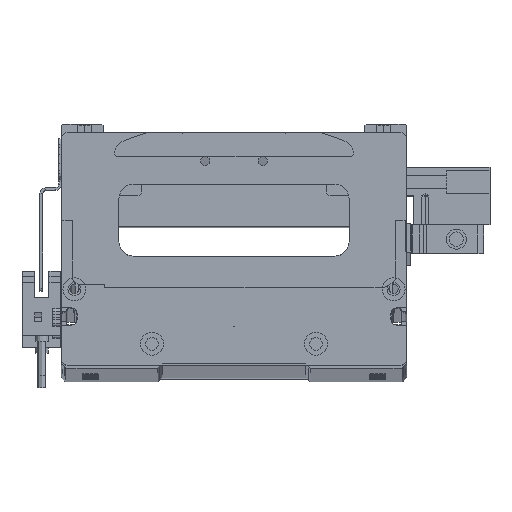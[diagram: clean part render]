
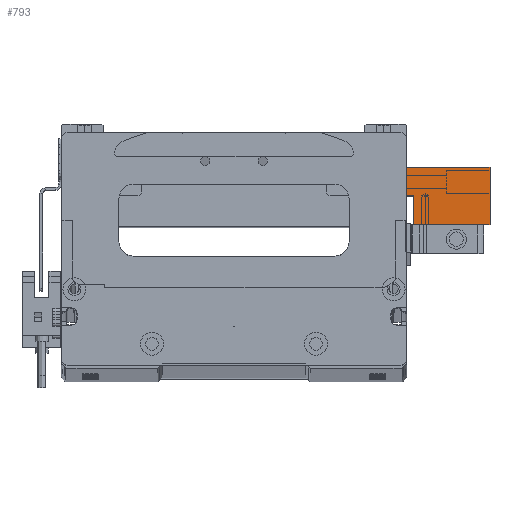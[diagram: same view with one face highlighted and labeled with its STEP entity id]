
A CAD part, top view. The second image highlights one B-rep face of the part: STEP entity #793.
In plain terms, the highlighted planar face has unit normal (0, 0, 1) as drawn and (-1, 0, 0) by its records, which use the part's own axes.
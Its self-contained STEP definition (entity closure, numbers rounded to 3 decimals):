
#281 = ORIENTED_EDGE ( 'NONE', *, *, #27596, .F. ) ;
#719 = ORIENTED_EDGE ( 'NONE', *, *, #24130, .T. ) ;
#792 = ORIENTED_EDGE ( 'NONE', *, *, #29918, .F. ) ;
#793 = ADVANCED_FACE ( 'NONE', ( #10178 ), #6411, .F. ) ;
#799 = VECTOR ( 'NONE', #24898, 1000. ) ;
#1149 = VECTOR ( 'NONE', #14878, 1000. ) ;
#1207 = DIRECTION ( 'NONE',  ( 0., 0., -1. ) ) ;
#1604 = DIRECTION ( 'NONE',  ( 0., -1., 0. ) ) ;
#1687 = EDGE_CURVE ( 'NONE', #20075, #33115, #25825, .T. ) ;
#3853 = VERTEX_POINT ( 'NONE', #17212 ) ;
#5144 = ORIENTED_EDGE ( 'NONE', *, *, #16963, .T. ) ;
#5771 = AXIS2_PLACEMENT_3D ( 'NONE', #29583, #31854, #1207 ) ;
#6411 = PLANE ( 'NONE',  #5771 ) ;
#6790 = VECTOR ( 'NONE', #13746, 1000. ) ;
#7271 = CARTESIAN_POINT ( 'NONE',  ( -130.52, 35.063, 10. ) ) ;
#8607 = CARTESIAN_POINT ( 'NONE',  ( -130.52, 64.063, 0. ) ) ;
#10081 = EDGE_CURVE ( 'NONE', #22618, #32636, #25006, .T. ) ;
#10178 = FACE_OUTER_BOUND ( 'NONE', #11283, .T. ) ;
#10768 = CARTESIAN_POINT ( 'NONE',  ( -130.52, 37.563, 20. ) ) ;
#11283 = EDGE_LOOP ( 'NONE', ( #12582, #5144, #792, #719, #26428, #281 ) ) ;
#12088 = CARTESIAN_POINT ( 'NONE',  ( -130.52, 64.063, 20. ) ) ;
#12582 = ORIENTED_EDGE ( 'NONE', *, *, #10081, .F. ) ;
#13746 = DIRECTION ( 'NONE',  ( 0., 0., 1. ) ) ;
#14660 = CARTESIAN_POINT ( 'NONE',  ( -130.52, 37.563, 10. ) ) ;
#14878 = DIRECTION ( 'NONE',  ( 0., -1., 0. ) ) ;
#14883 = VECTOR ( 'NONE', #1604, 1000. ) ;
#15904 = LINE ( 'NONE', #24842, #31277 ) ;
#16553 = CARTESIAN_POINT ( 'NONE',  ( -130.52, 37.563, 10. ) ) ;
#16963 = EDGE_CURVE ( 'NONE', #22618, #29544, #32968, .T. ) ;
#17027 = CARTESIAN_POINT ( 'NONE',  ( -130.52, 64.063, 0. ) ) ;
#17212 = CARTESIAN_POINT ( 'NONE',  ( -130.52, 64.063, 20. ) ) ;
#18192 = LINE ( 'NONE', #27849, #25855 ) ;
#20075 = VERTEX_POINT ( 'NONE', #8607 ) ;
#22523 = CARTESIAN_POINT ( 'NONE',  ( -130.52, 35.063, 10. ) ) ;
#22618 = VERTEX_POINT ( 'NONE', #14660 ) ;
#24130 = EDGE_CURVE ( 'NONE', #3853, #20075, #15904, .T. ) ;
#24737 = DIRECTION ( 'NONE',  ( 0., 0., -1. ) ) ;
#24842 = CARTESIAN_POINT ( 'NONE',  ( -130.52, 64.063, 20. ) ) ;
#24898 = DIRECTION ( 'NONE',  ( 0., -1., 0. ) ) ;
#25006 = LINE ( 'NONE', #22523, #799 ) ;
#25825 = LINE ( 'NONE', #17027, #14883 ) ;
#25855 = VECTOR ( 'NONE', #30552, 1000. ) ;
#26428 = ORIENTED_EDGE ( 'NONE', *, *, #1687, .T. ) ;
#27596 = EDGE_CURVE ( 'NONE', #32636, #33115, #18192, .T. ) ;
#27849 = CARTESIAN_POINT ( 'NONE',  ( -130.52, 35.063, 20. ) ) ;
#29544 = VERTEX_POINT ( 'NONE', #10768 ) ;
#29583 = CARTESIAN_POINT ( 'NONE',  ( -130.52, 64.063, 20. ) ) ;
#29918 = EDGE_CURVE ( 'NONE', #3853, #29544, #33382, .T. ) ;
#30199 = CARTESIAN_POINT ( 'NONE',  ( -130.52, 35.063, 0. ) ) ;
#30552 = DIRECTION ( 'NONE',  ( 0., 0., -1. ) ) ;
#31277 = VECTOR ( 'NONE', #24737, 1000. ) ;
#31854 = DIRECTION ( 'NONE',  ( 1., 0., 0. ) ) ;
#32636 = VERTEX_POINT ( 'NONE', #7271 ) ;
#32968 = LINE ( 'NONE', #16553, #6790 ) ;
#33115 = VERTEX_POINT ( 'NONE', #30199 ) ;
#33382 = LINE ( 'NONE', #12088, #1149 ) ;
